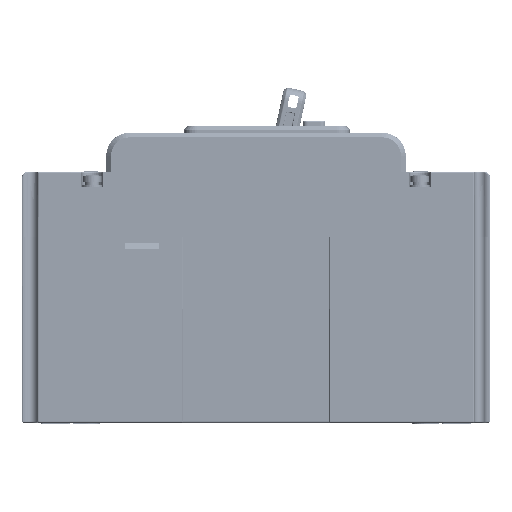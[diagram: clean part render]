
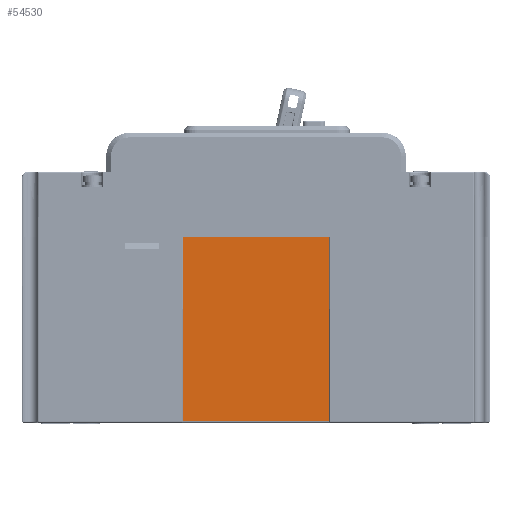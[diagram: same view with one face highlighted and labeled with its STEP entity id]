
A CAD part, left-side view. The second image highlights one B-rep face of the part: STEP entity #54530.
In plain terms, the highlighted planar face has unit normal (-1, 0, 0).
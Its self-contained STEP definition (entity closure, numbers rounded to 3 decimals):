
#1946=DIRECTION('',(0.,1.,0.));
#1947=VECTOR('',#1946,47.);
#1948=CARTESIAN_POINT('',(0.5,51.5,60.));
#1949=LINE('',#1948,#1947);
#19478=DIRECTION('',(0.,-1.,0.));
#19479=VECTOR('',#19478,47.);
#19480=CARTESIAN_POINT('',(0.5,98.5,1.));
#19481=LINE('',#19480,#19479);
#19482=DIRECTION('',(0.,0.,-1.));
#19483=VECTOR('',#19482,59.);
#19484=CARTESIAN_POINT('',(0.5,51.5,60.));
#19485=LINE('',#19484,#19483);
#19578=DIRECTION('',(0.,0.,-1.));
#19579=VECTOR('',#19578,59.);
#19580=CARTESIAN_POINT('',(0.5,98.5,60.));
#19581=LINE('',#19580,#19579);
#25862=CARTESIAN_POINT('',(0.5,51.5,60.));
#25863=CARTESIAN_POINT('',(0.5,98.5,60.));
#25864=VERTEX_POINT('',#25862);
#25865=VERTEX_POINT('',#25863);
#28050=CARTESIAN_POINT('',(0.5,98.5,1.));
#28051=VERTEX_POINT('',#28050);
#28056=CARTESIAN_POINT('',(0.5,51.5,1.));
#28057=VERTEX_POINT('',#28056);
#54517=CARTESIAN_POINT('',(0.5,51.5,60.));
#54518=DIRECTION('',(1.,0.,0.));
#54519=DIRECTION('',(0.,1.,0.));
#54520=AXIS2_PLACEMENT_3D('',#54517,#54518,#54519);
#54521=PLANE('',#54520);
#54523=ORIENTED_EDGE('',*,*,#54522,.F.);
#54525=ORIENTED_EDGE('',*,*,#54524,.F.);
#54526=ORIENTED_EDGE('',*,*,#31372,.F.);
#54527=ORIENTED_EDGE('',*,*,#54510,.T.);
#54528=EDGE_LOOP('',(#54523,#54525,#54526,#54527));
#54529=FACE_OUTER_BOUND('',#54528,.F.);
#54530=ADVANCED_FACE('',(#54529),#54521,.F.);
#31372=EDGE_CURVE('',#25864,#25865,#1949,.T.);
#54510=EDGE_CURVE('',#25864,#28057,#19485,.T.);
#54522=EDGE_CURVE('',#28051,#28057,#19481,.T.);
#54524=EDGE_CURVE('',#25865,#28051,#19581,.T.);
